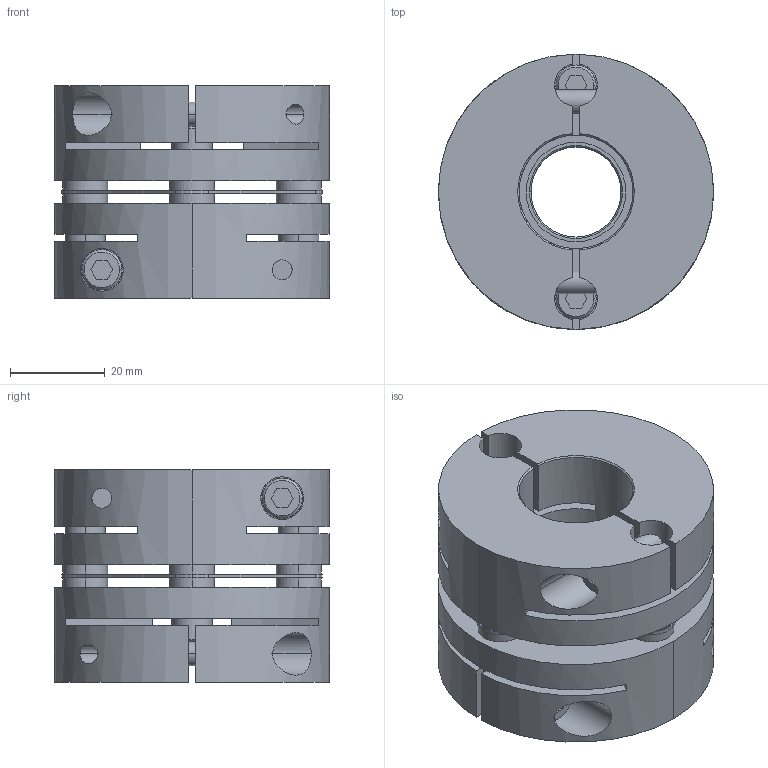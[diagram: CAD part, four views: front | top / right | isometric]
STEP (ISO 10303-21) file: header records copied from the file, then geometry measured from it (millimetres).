
FILE_DESCRIPTION((''),'2;1');
FILE_NAME('LAS-58C-19×24.stp','2011-08-09T15:35:39',(''),(''),'AutoCAD STEP 2000i','AutoCAD 2000i',', , ');
FILE_SCHEMA(('CONFIG_CONTROL_DESIGN'));
Length unit declared in the file: millimetre
Products named in the file (7): LAS-58C-19×19; 忣兜1; LA-5802-D19-1; LA-5802-D19; LA-5802-D12-1; LA-5802-D12; LAS58-ITA
Assembly tree (6 placements, depth 2):
  LAS-58C-19×19
    忣兜1
    LA-5802-D19-1
    LA-5802-D19
    LA-5802-D12-1
    LA-5802-D12
    LAS58-ITA
Bounding box: 58 x 58 x 44.8 mm (x, y, z)
Volume: 82905.3 mm3; surface area: 32385.3 mm2
Topology: 1 solids, 1 shells, 240 faces, 636 edges, 416 vertices
Faces by surface type: plane 116, cylinder 96, cone 28
Entity records: 8567 total; most frequent: CARTESIAN_POINT 2199, DIRECTION 1338, ORIENTED_EDGE 1280, EDGE_CURVE 640, AXIS2_PLACEMENT_3D 491, VERTEX_POINT 416, VECTOR 356, LINE 356
